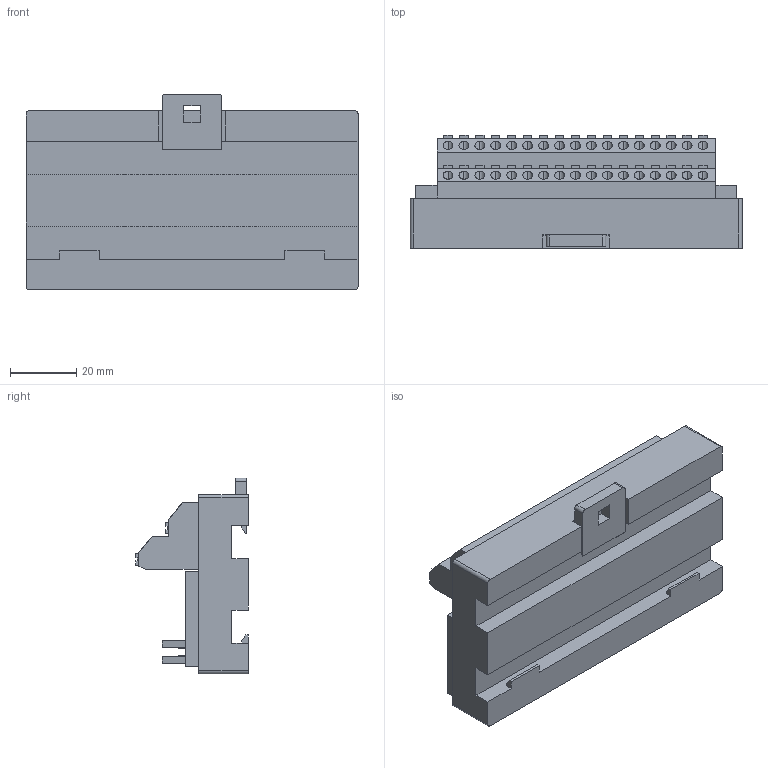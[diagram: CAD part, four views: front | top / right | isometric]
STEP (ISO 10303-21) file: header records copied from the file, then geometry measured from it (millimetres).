
FILE_DESCRIPTION (( 'STEP AP214' ), '1' );
FILE_NAME ('MT-EO34.STEP', '2023-07-12T08:03:07', ( '' ), ( '' ), 'SwSTEP 2.0', 'SolidWorks 2021', '' );
FILE_SCHEMA (( 'AUTOMOTIVE_DESIGN' ));
Length unit declared in the file: millimetre
Products named in the file (1): MT-EO34
Bounding box: 100 x 34 x 59 mm (x, y, z)
Volume: 96566.9 mm3; surface area: 28583.8 mm2
Topology: 1 solids, 1 shells, 685 faces, 1728 edges, 1150 vertices
Faces by surface type: plane 609, cylinder 76
Entity records: 20216 total; most frequent: CARTESIAN_POINT 3768, ORIENTED_EDGE 3456, DIRECTION 3116, EDGE_CURVE 1728, VECTOR 1576, LINE 1576, VERTEX_POINT 1150, EDGE_LOOP 792
